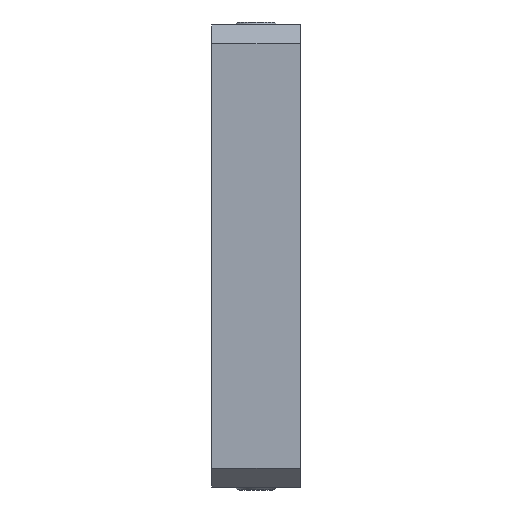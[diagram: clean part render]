
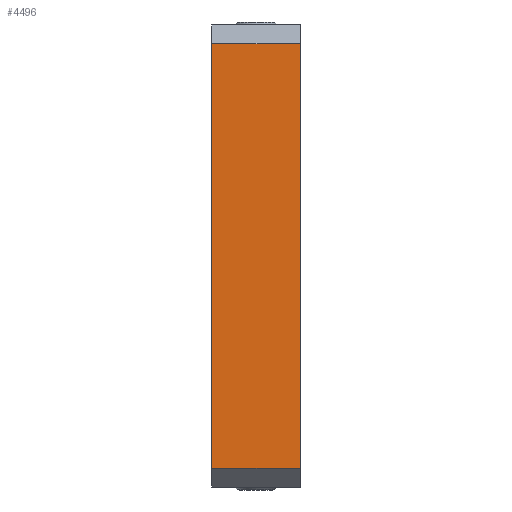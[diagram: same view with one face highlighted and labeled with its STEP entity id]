
A CAD part, left-side view. The second image highlights one B-rep face of the part: STEP entity #4496.
In plain terms, the highlighted planar face has unit normal (-1, 0, 0).
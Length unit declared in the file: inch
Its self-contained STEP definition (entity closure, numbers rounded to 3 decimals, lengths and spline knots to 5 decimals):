
#132 = EDGE_CURVE ( 'NONE', #7528, #6863, #7028, .T. ) ;
#1164 = CARTESIAN_POINT ( 'NONE',  ( -6.65354, 0., 2.82087 ) ) ;
#1229 = VECTOR ( 'NONE', #3751, 39.37008 ) ;
#1485 = EDGE_CURVE ( 'NONE', #3479, #7528, #1520, .T. ) ;
#1520 = LINE ( 'NONE', #4867, #1229 ) ;
#2515 = VECTOR ( 'NONE', #10287, 39.37008 ) ;
#3237 = DIRECTION ( 'NONE',  ( 0., 0., -1. ) ) ;
#3326 = EDGE_LOOP ( 'NONE', ( #7002, #13734, #10124, #11203 ) ) ;
#3479 = VERTEX_POINT ( 'NONE', #9593 ) ;
#3525 = CARTESIAN_POINT ( 'NONE',  ( -6.65354, 0., -2.82087 ) ) ;
#3751 = DIRECTION ( 'NONE',  ( 0., -1., 0. ) ) ;
#4496 = ADVANCED_FACE ( 'NONE', ( #8850 ), #5382, .F. ) ;
#4833 = CARTESIAN_POINT ( 'NONE',  ( -6.65354, 1.1811, 2.82087 ) ) ;
#4867 = CARTESIAN_POINT ( 'NONE',  ( -6.65354, 1.1811, -2.82087 ) ) ;
#5382 = PLANE ( 'NONE',  #8753 ) ;
#5394 = VECTOR ( 'NONE', #11261, 39.37008 ) ;
#6863 = VERTEX_POINT ( 'NONE', #1164 ) ;
#6921 = LINE ( 'NONE', #10053, #7825 ) ;
#7002 = ORIENTED_EDGE ( 'NONE', *, *, #8119, .F. ) ;
#7028 = LINE ( 'NONE', #10488, #2515 ) ;
#7528 = VERTEX_POINT ( 'NONE', #3525 ) ;
#7825 = VECTOR ( 'NONE', #7834, 39.37008 ) ;
#7834 = DIRECTION ( 'NONE',  ( 0., 1., 0. ) ) ;
#8119 = EDGE_CURVE ( 'NONE', #3479, #8808, #13413, .T. ) ;
#8425 = CARTESIAN_POINT ( 'NONE',  ( -6.65354, 1.1811, -3.07087 ) ) ;
#8753 = AXIS2_PLACEMENT_3D ( 'NONE', #8425, #11721, #3237 ) ;
#8759 = EDGE_CURVE ( 'NONE', #6863, #8808, #6921, .T. ) ;
#8808 = VERTEX_POINT ( 'NONE', #4833 ) ;
#8850 = FACE_OUTER_BOUND ( 'NONE', #3326, .T. ) ;
#9593 = CARTESIAN_POINT ( 'NONE',  ( -6.65354, 1.1811, -2.82087 ) ) ;
#10053 = CARTESIAN_POINT ( 'NONE',  ( -6.65354, 1.1811, 2.82087 ) ) ;
#10124 = ORIENTED_EDGE ( 'NONE', *, *, #132, .T. ) ;
#10208 = CARTESIAN_POINT ( 'NONE',  ( -6.65354, 1.1811, -3.07087 ) ) ;
#10287 = DIRECTION ( 'NONE',  ( 0., 0., 1. ) ) ;
#10488 = CARTESIAN_POINT ( 'NONE',  ( -6.65354, 0., -3.07087 ) ) ;
#11203 = ORIENTED_EDGE ( 'NONE', *, *, #8759, .T. ) ;
#11261 = DIRECTION ( 'NONE',  ( 0., 0., 1. ) ) ;
#11721 = DIRECTION ( 'NONE',  ( 1., 0., 0. ) ) ;
#13413 = LINE ( 'NONE', #10208, #5394 ) ;
#13734 = ORIENTED_EDGE ( 'NONE', *, *, #1485, .T. ) ;
